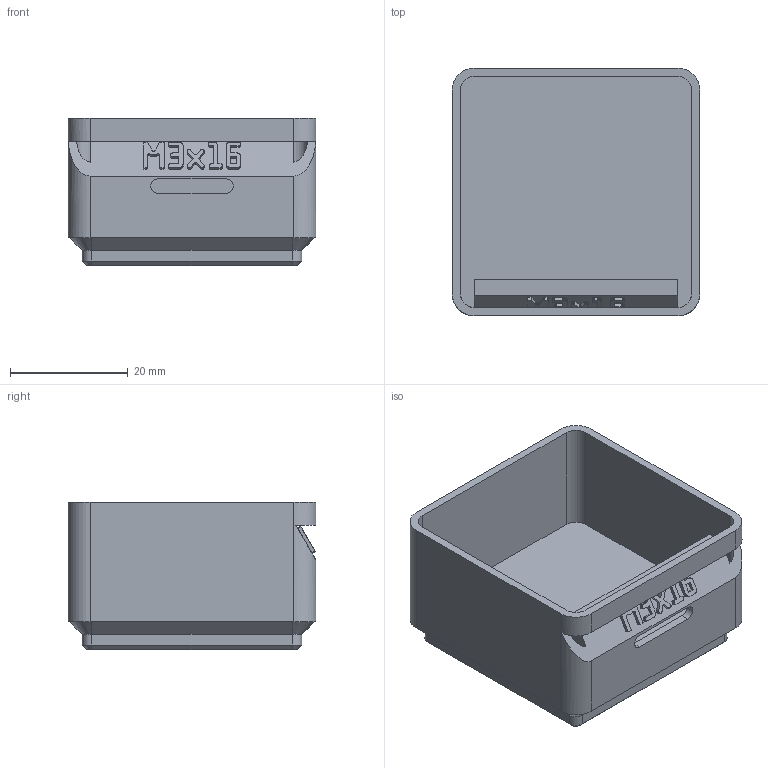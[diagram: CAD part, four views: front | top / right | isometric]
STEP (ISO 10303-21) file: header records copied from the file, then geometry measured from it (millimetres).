
FILE_DESCRIPTION(('Open CASCADE Model'),'2;1');
FILE_NAME('Open CASCADE Shape Model','2026-11-03T17:13:48',('Author'),( 'Open CASCADE'),'Open CASCADE STEP processor 8.0','build123d', 'Unknown');
FILE_SCHEMA(('AUTOMOTIVE_DESIGN { 1 0 10303 214 1 1 1 1 }'));
Length unit declared in the file: millimetre
Products named in the file (1): COMPOUND
Bounding box: 42 x 42 x 25 mm (x, y, z)
Volume: 13726 mm3; surface area: 10540.7 mm2
Topology: 1 solids, 1 shells, 550 faces, 1608 edges, 1066 vertices
Faces by surface type: plane 528, cylinder 14, cone 8
Entity records: 37742 total; most frequent: CARTESIAN_POINT 7601, DIRECTION 4878, LINE 3660, VECTOR 3660, ORIENTED_EDGE 3216, PCURVE 3216, DEFINITIONAL_REPRESENTATION 3216, EDGE_CURVE 1608
